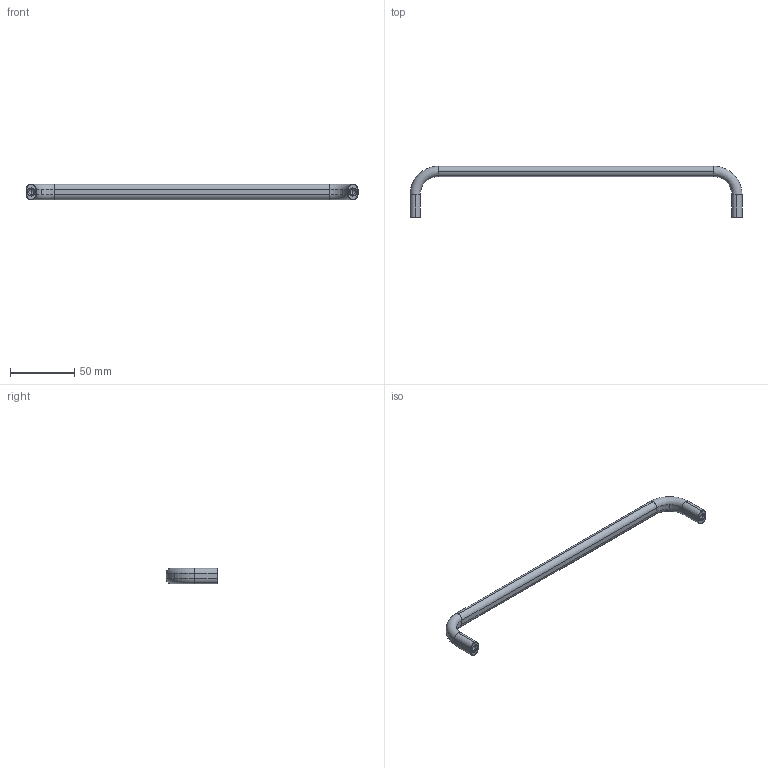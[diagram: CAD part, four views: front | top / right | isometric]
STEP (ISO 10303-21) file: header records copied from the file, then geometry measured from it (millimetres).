
FILE_DESCRIPTION((''),'2;1');
FILE_NAME('c:\wix\Knobs\7892\7892.W025.stp','2003-04-04T16:41:59',('joanc'),(''),'Autodesk Inventor (tm) 5.3','Autodesk Inventor (tm) 5.3','');
FILE_SCHEMA(('CONFIG_CONTROL_DESIGN'));
Length unit declared in the file: millimetre
Products named in the file (1): 7892.W025
Bounding box: 258 x 40 x 12 mm (x, y, z)
Volume: 24805.2 mm3; surface area: 10674.5 mm2
Topology: 1 solids, 1 shells, 72 faces, 166 edges, 94 vertices
Faces by surface type: cylinder 36, torus 16, cone 12, plane 8
Entity records: 2105 total; most frequent: DIRECTION 408, CARTESIAN_POINT 329, ORIENTED_EDGE 324, AXIS2_PLACEMENT_3D 173, EDGE_CURVE 162, CIRCLE 100, VERTEX_POINT 94, EDGE_LOOP 74
